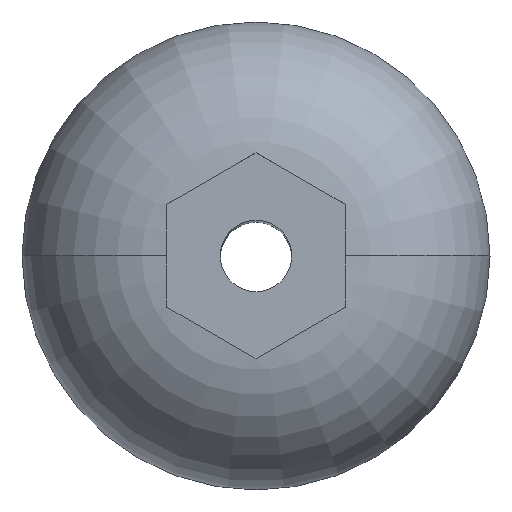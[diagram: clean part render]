
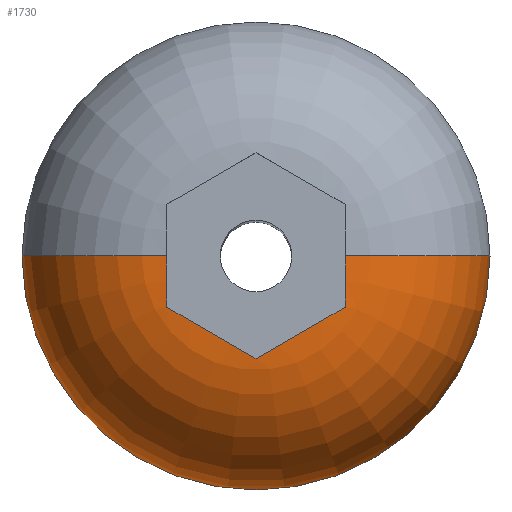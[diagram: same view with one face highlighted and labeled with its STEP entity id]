
A CAD part, top view. The second image highlights one B-rep face of the part: STEP entity #1730.
In plain terms, the highlighted toroidal (fillet/blend) face has major radius 1.95 mm and minor radius 3.3 mm.
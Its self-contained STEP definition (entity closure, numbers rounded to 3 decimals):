
#113 = CARTESIAN_POINT ( 'NONE',  ( 2., -1.155, 3.28 ) ) ;
#122 = B_SPLINE_CURVE_WITH_KNOTS ( 'NONE', 3,
 ( #2418, #2646, #1068, #403, #388, #1047 ),
 .UNSPECIFIED., .F., .F.,
 ( 4, 2, 4 ),
 ( 0., 0.001, 0.001 ),
 .UNSPECIFIED. ) ;
#162 = DIRECTION ( 'NONE',  ( 0., 0., 1. ) ) ;
#192 = VERTEX_POINT ( 'NONE', #2752 ) ;
#254 = VERTEX_POINT ( 'NONE', #595 ) ;
#287 = CARTESIAN_POINT ( 'NONE',  ( -2., -0.77, 3.295 ) ) ;
#346 = DIRECTION ( 'NONE',  ( -1., 0., 0. ) ) ;
#355 = ORIENTED_EDGE ( 'NONE', *, *, #2351, .T. ) ;
#357 = DIRECTION ( 'NONE',  ( 0., 0., -1. ) ) ;
#388 = CARTESIAN_POINT ( 'NONE',  ( 2., -0.963, 3.291 ) ) ;
#403 = CARTESIAN_POINT ( 'NONE',  ( 2., -0.77, 3.295 ) ) ;
#520 = CIRCLE ( 'NONE', #1971, 5.25 ) ;
#566 = CARTESIAN_POINT ( 'NONE',  ( -2., 0., 3.3 ) ) ;
#577 = CARTESIAN_POINT ( 'NONE',  ( 0., -2.309, 3.28 ) ) ;
#590 = VERTEX_POINT ( 'NONE', #2504 ) ;
#595 = CARTESIAN_POINT ( 'NONE',  ( -2., -1.155, 3.28 ) ) ;
#686 = ORIENTED_EDGE ( 'NONE', *, *, #1037, .T. ) ;
#730 = AXIS2_PLACEMENT_3D ( 'NONE', #826, #1265, #357 ) ;
#798 = CARTESIAN_POINT ( 'NONE',  ( -1.95, 0., 0. ) ) ;
#820 = DIRECTION ( 'NONE',  ( 1., 0., 0. ) ) ;
#826 = CARTESIAN_POINT ( 'NONE',  ( 1.95, 0., 0. ) ) ;
#919 = CARTESIAN_POINT ( 'NONE',  ( -2., -0.385, 3.3 ) ) ;
#947 = EDGE_CURVE ( 'NONE', #590, #1238, #520, .T. ) ;
#1004 = EDGE_CURVE ( 'NONE', #590, #2364, #2117, .T. ) ;
#1012 = CIRCLE ( 'NONE', #730, 3.3 ) ;
#1032 = CARTESIAN_POINT ( 'NONE',  ( -1., -1.732, 3.298 ) ) ;
#1037 = EDGE_CURVE ( 'NONE', #254, #2364, #2851, .T. ) ;
#1047 = CARTESIAN_POINT ( 'NONE',  ( 2., -1.155, 3.28 ) ) ;
#1049 = VERTEX_POINT ( 'NONE', #1149 ) ;
#1064 = CARTESIAN_POINT ( 'NONE',  ( 0., 0., 0. ) ) ;
#1068 = CARTESIAN_POINT ( 'NONE',  ( 2., -0.385, 3.3 ) ) ;
#1149 = CARTESIAN_POINT ( 'NONE',  ( 2., -1.155, 3.28 ) ) ;
#1152 = CARTESIAN_POINT ( 'NONE',  ( 0., -2.309, 3.28 ) ) ;
#1238 = VERTEX_POINT ( 'NONE', #2706 ) ;
#1265 = DIRECTION ( 'NONE',  ( 0., -1., 0. ) ) ;
#1289 = DIRECTION ( 'NONE',  ( 0., 1., 0. ) ) ;
#1390 = TOROIDAL_SURFACE ( 'NONE', #2743, 1.95, 3.3 ) ;
#1414 = ORIENTED_EDGE ( 'NONE', *, *, #1574, .T. ) ;
#1421 = CARTESIAN_POINT ( 'NONE',  ( -2., -0.963, 3.291 ) ) ;
#1472 = CARTESIAN_POINT ( 'NONE',  ( 0.333, -2.117, 3.301 ) ) ;
#1478 = B_SPLINE_CURVE_WITH_KNOTS ( 'NONE', 3,
 ( #113, #1510, #2376, #1472, #2843 ),
 .UNSPECIFIED., .F., .F.,
 ( 4, 1, 4 ),
 ( 0., 0.001, 0.002 ),
 .UNSPECIFIED. ) ;
#1484 = DIRECTION ( 'NONE',  ( 0., 0., 1. ) ) ;
#1510 = CARTESIAN_POINT ( 'NONE',  ( 1.667, -1.347, 3.301 ) ) ;
#1574 = EDGE_CURVE ( 'NONE', #1049, #2070, #1478, .T. ) ;
#1594 = FACE_OUTER_BOUND ( 'NONE', #1664, .T. ) ;
#1597 = CARTESIAN_POINT ( 'NONE',  ( -2., -0.194, 3.3 ) ) ;
#1609 = EDGE_CURVE ( 'NONE', #1238, #192, #1012, .T. ) ;
#1643 = ORIENTED_EDGE ( 'NONE', *, *, #2413, .T. ) ;
#1664 = EDGE_LOOP ( 'NONE', ( #2701, #2302, #1992, #1643, #1414, #355, #686 ) ) ;
#1730 = ADVANCED_FACE ( 'NONE', ( #1594 ), #1390, .T. ) ;
#1810 = AXIS2_PLACEMENT_3D ( 'NONE', #798, #1289, #346 ) ;
#1855 = CARTESIAN_POINT ( 'NONE',  ( -2., -1.155, 3.28 ) ) ;
#1948 = CARTESIAN_POINT ( 'NONE',  ( -0.333, -2.117, 3.301 ) ) ;
#1957 = CARTESIAN_POINT ( 'NONE',  ( 0., 0., 0. ) ) ;
#1971 = AXIS2_PLACEMENT_3D ( 'NONE', #1957, #1484, #820 ) ;
#1992 = ORIENTED_EDGE ( 'NONE', *, *, #1609, .T. ) ;
#2070 = VERTEX_POINT ( 'NONE', #1152 ) ;
#2087 = CARTESIAN_POINT ( 'NONE',  ( -2., 0., 3.3 ) ) ;
#2117 = CIRCLE ( 'NONE', #1810, 3.3 ) ;
#2146 = CARTESIAN_POINT ( 'NONE',  ( -1.667, -1.347, 3.301 ) ) ;
#2157 = B_SPLINE_CURVE_WITH_KNOTS ( 'NONE', 3,
 ( #577, #1948, #1032, #2146, #2831 ),
 .UNSPECIFIED., .F., .F.,
 ( 4, 1, 4 ),
 ( 0., 0.001, 0.002 ),
 .UNSPECIFIED. ) ;
#2208 = DIRECTION ( 'NONE',  ( 1., 0., 0. ) ) ;
#2302 = ORIENTED_EDGE ( 'NONE', *, *, #947, .T. ) ;
#2351 = EDGE_CURVE ( 'NONE', #2070, #254, #2157, .T. ) ;
#2364 = VERTEX_POINT ( 'NONE', #566 ) ;
#2376 = CARTESIAN_POINT ( 'NONE',  ( 1., -1.732, 3.298 ) ) ;
#2413 = EDGE_CURVE ( 'NONE', #192, #1049, #122, .T. ) ;
#2418 = CARTESIAN_POINT ( 'NONE',  ( 2., 0., 3.3 ) ) ;
#2504 = CARTESIAN_POINT ( 'NONE',  ( -5.25, 0., 0. ) ) ;
#2646 = CARTESIAN_POINT ( 'NONE',  ( 2., -0.193, 3.3 ) ) ;
#2701 = ORIENTED_EDGE ( 'NONE', *, *, #1004, .F. ) ;
#2706 = CARTESIAN_POINT ( 'NONE',  ( 5.25, 0., 0. ) ) ;
#2743 = AXIS2_PLACEMENT_3D ( 'NONE', #1064, #162, #2208 ) ;
#2752 = CARTESIAN_POINT ( 'NONE',  ( 2., 0., 3.3 ) ) ;
#2831 = CARTESIAN_POINT ( 'NONE',  ( -2., -1.155, 3.28 ) ) ;
#2843 = CARTESIAN_POINT ( 'NONE',  ( 0., -2.309, 3.28 ) ) ;
#2851 = B_SPLINE_CURVE_WITH_KNOTS ( 'NONE', 3,
 ( #1855, #1421, #287, #919, #1597, #2087 ),
 .UNSPECIFIED., .F., .F.,
 ( 4, 2, 4 ),
 ( 0.026, 0.026, 0.027 ),
 .UNSPECIFIED. ) ;
